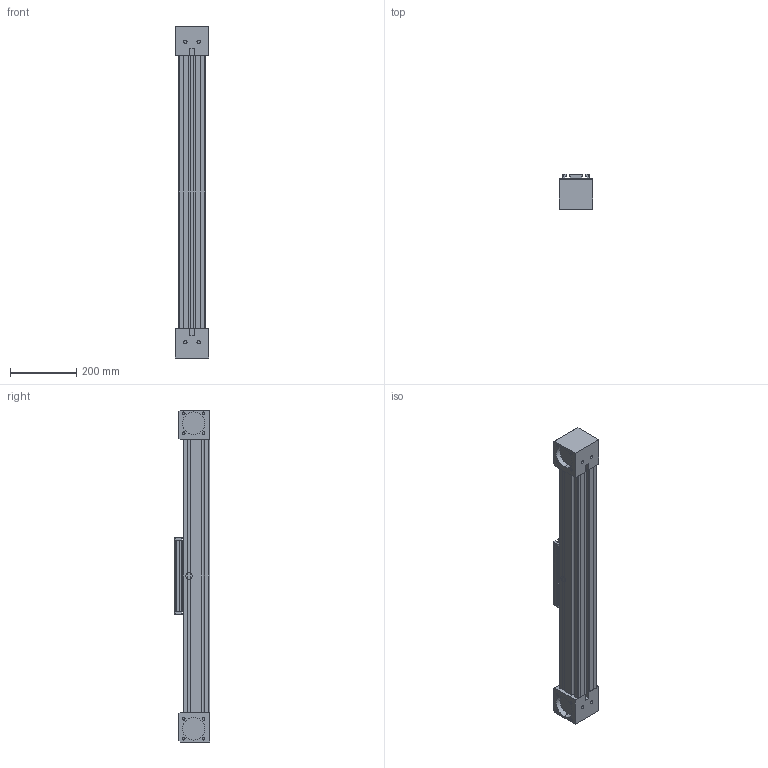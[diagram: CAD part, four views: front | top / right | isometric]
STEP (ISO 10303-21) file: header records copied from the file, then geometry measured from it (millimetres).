
FILE_DESCRIPTION (( 'STEP AP214' ), '1' );
FILE_NAME ('QSRZ80.STEP', '2021-09-30T06:13:16', ( '' ), ( '' ), 'SwSTEP 2.0', 'SolidWorks 2020', '' );
FILE_SCHEMA (( 'AUTOMOTIVE_DESIGN' ));
Length unit declared in the file: millimetre
Products named in the file (4): timing belt reverse unit^QSRZ80_without; profile^QSRZ80_standard; QSRZ80; carriage^QSRZ80_carriage version 0
Assembly tree (4 placements, depth 2):
  QSRZ80
    profile^QSRZ80_standard
    carriage^QSRZ80_carriage version 0
    timing belt reverse unit^QSRZ80_without  x2
Bounding box: 100 x 106 x 1000 mm (x, y, z)
Volume: 5454512.2 mm3; surface area: 645255.3 mm2
Topology: 8 solids, 8 shells, 277 faces, 695 edges, 458 vertices
Faces by surface type: plane 182, cylinder 87, torus 8
Entity records: 7195 total; most frequent: CARTESIAN_POINT 1219, DIRECTION 1199, ORIENTED_EDGE 1186, EDGE_CURVE 593, LINE 459, VECTOR 459, VERTEX_POINT 390, AXIS2_PLACEMENT_3D 370
